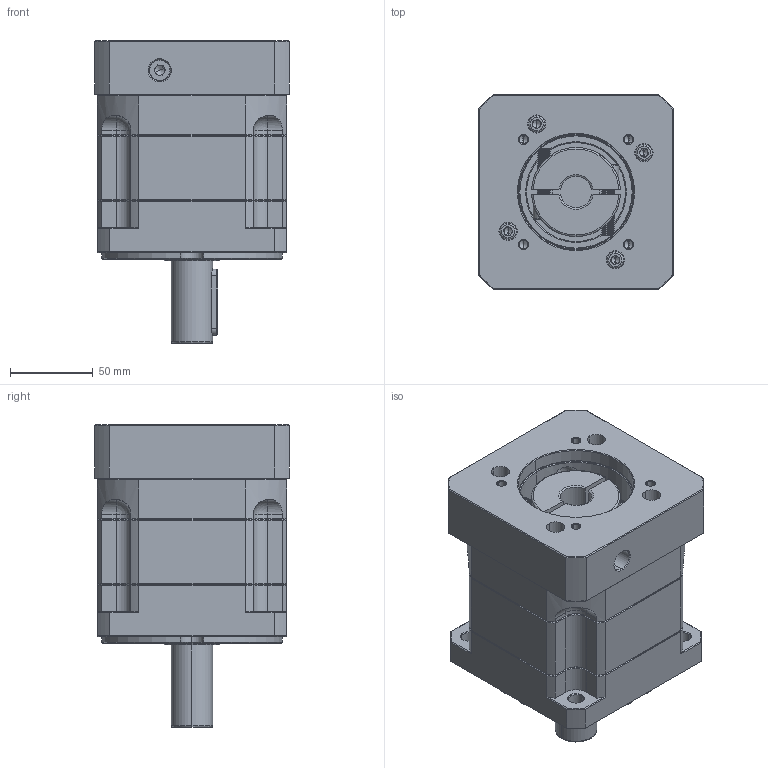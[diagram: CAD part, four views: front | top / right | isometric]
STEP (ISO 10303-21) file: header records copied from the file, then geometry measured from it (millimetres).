
FILE_DESCRIPTION (( 'STEP AP214' ), '1' );
FILE_NAME ('ZB115A-D25-L1-P2-19-70-90-M6.step', '2023-08-26T06:20:39', ( '' ), ( '' ), 'SwSTEP 2.0', 'SolidWorks 2016', '' );
FILE_SCHEMA (( 'AUTOMOTIVE_DESIGN' ));
Length unit declared in the file: millimetre
Products named in the file (1): ZB115A-D25-L1-P2-19-70-90-M6
Bounding box: 118 x 118 x 183.5 mm (x, y, z)
Volume: 1520202.2 mm3; surface area: 160741.2 mm2
Topology: 6 solids, 6 shells, 2248 faces, 5967 edges, 3819 vertices
Faces by surface type: plane 1136, bspline 399, cone 368, cylinder 313, torus 28, sphere 4
Entity records: 113228 total; most frequent: CARTESIAN_POINT 35121, ORIENTED_EDGE 11866, DIRECTION 9748, EDGE_CURVE 5933, LINE 3838, VECTOR 3838, VERTEX_POINT 3819, AXIS2_PLACEMENT_3D 2955
